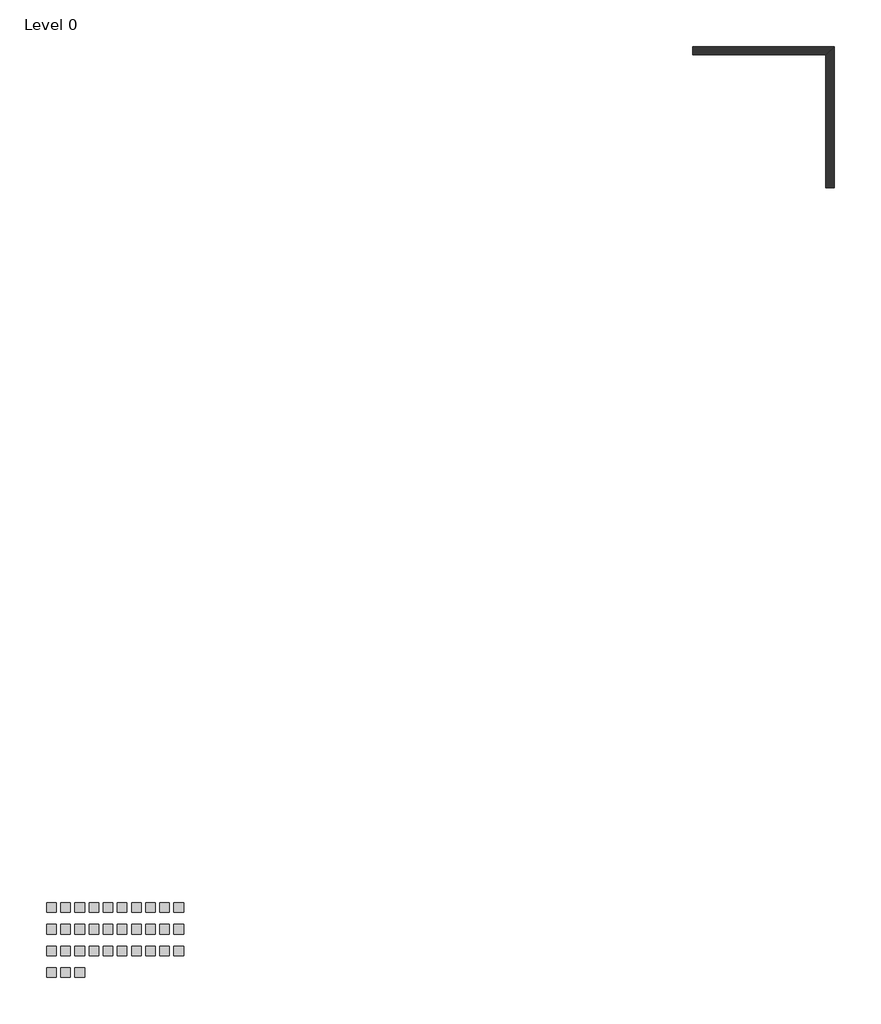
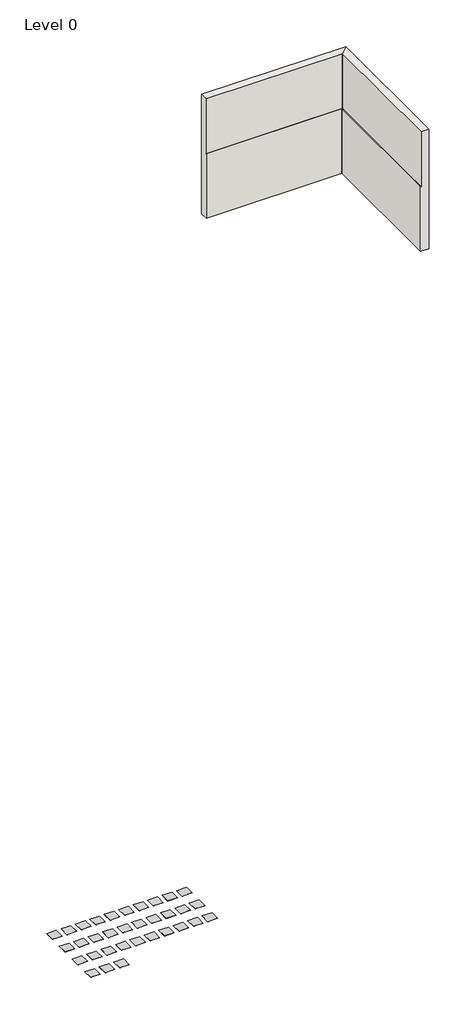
# One storey: 33 proxies, 2 walls.
"""IFC4 building model written with IfcOpenShell, lengths in millimetres."""

from ifc_helpers import new_model, si_unit, origin, place, context, project, spatial, faceted_brep, transform, mapped, element, save
from components import generic_models_07b58aa4

model = new_model("IFC4")

# Units and contexts
model_context = context("Model", 3, world=origin())
ifc_project = project(units=[si_unit("LENGTHUNIT", "METRE", prefix="MILLI")], contexts=[model_context])

# Site, building, storey
site = spatial("IfcSite", under=ifc_project)
building = spatial("IfcBuilding", under=site)
storey = spatial("IfcBuildingStorey", under=building, Name="Level 0", Elevation=0.0)

# Proxies
placement = place(None, origin())
generic_models_shape = generic_models_07b58aa4(model_context)
element("IfcBuildingElementProxy", 1, Name="Loggia_Placeholder : Loggia Placeholder", ObjectType="Loggia_Placeholder : Loggia Placeholder", at=placement, inside=storey, context=model_context, shape_type="MappedRepresentation", body=[
    mapped(generic_models_shape, transform((-8758.8736536, -17651.6576878, 0.0), x_axis=(1.0, 0.0, 0.0), y_axis=(0.0, 1.0, 0.0), z_axis=(0.0, 0.0, 1.0))),
])
element("IfcBuildingElementProxy", 2, Name="Loggia_Placeholder : Loggia Placeholder", ObjectType="Loggia_Placeholder : Loggia Placeholder", at=placement, inside=storey, context=model_context, shape_type="MappedRepresentation", body=[
    mapped(generic_models_shape, transform((-9355.6736536, -16280.0576878, 0.0), x_axis=(1.0, 0.0, 0.0), y_axis=(0.0, 1.0, 0.0), z_axis=(0.0, 0.0, 1.0))),
])
element("IfcBuildingElementProxy", 3, Name="Loggia_Placeholder : Loggia Placeholder", ObjectType="Loggia_Placeholder : Loggia Placeholder", at=placement, inside=storey, context=model_context, shape_type="MappedRepresentation", body=[
    mapped(generic_models_shape, transform((-9057.2736536, -16280.0576878, 0.0), x_axis=(1.0, 0.0, 0.0), y_axis=(0.0, 1.0, 0.0), z_axis=(0.0, 0.0, 1.0))),
])
element("IfcBuildingElementProxy", 4, Name="Loggia_Placeholder : Loggia Placeholder", ObjectType="Loggia_Placeholder : Loggia Placeholder", at=placement, inside=storey, context=model_context, shape_type="MappedRepresentation", body=[
    mapped(generic_models_shape, transform((-8758.8736536, -16280.0576878, 0.0), x_axis=(1.0, 0.0, 0.0), y_axis=(0.0, 1.0, 0.0), z_axis=(0.0, 0.0, 1.0))),
])
element("IfcBuildingElementProxy", 5, Name="Loggia_Placeholder : Loggia Placeholder", ObjectType="Loggia_Placeholder : Loggia Placeholder", at=placement, inside=storey, context=model_context, shape_type="MappedRepresentation", body=[
    mapped(generic_models_shape, transform((-8460.4736536, -16280.0576878, 0.0), x_axis=(1.0, 0.0, 0.0), y_axis=(0.0, 1.0, 0.0), z_axis=(0.0, 0.0, 1.0))),
])
element("IfcBuildingElementProxy", 6, Name="Loggia_Placeholder : Loggia Placeholder", ObjectType="Loggia_Placeholder : Loggia Placeholder", at=placement, inside=storey, context=model_context, shape_type="MappedRepresentation", body=[
    mapped(generic_models_shape, transform((-8162.0736536, -16280.0576878, 0.0), x_axis=(1.0, 0.0, 0.0), y_axis=(0.0, 1.0, 0.0), z_axis=(0.0, 0.0, 1.0))),
])
element("IfcBuildingElementProxy", 7, Name="Loggia_Placeholder : Loggia Placeholder", ObjectType="Loggia_Placeholder : Loggia Placeholder", at=placement, inside=storey, context=model_context, shape_type="MappedRepresentation", body=[
    mapped(generic_models_shape, transform((-7863.6736536, -16280.0576878, 0.0), x_axis=(1.0, 0.0, 0.0), y_axis=(0.0, 1.0, 0.0), z_axis=(0.0, 0.0, 1.0))),
])
element("IfcBuildingElementProxy", 8, Name="Loggia_Placeholder : Loggia Placeholder", ObjectType="Loggia_Placeholder : Loggia Placeholder", at=placement, inside=storey, context=model_context, shape_type="MappedRepresentation", body=[
    mapped(generic_models_shape, transform((-7565.2736536, -16280.0576878, 0.0), x_axis=(1.0, 0.0, 0.0), y_axis=(0.0, 1.0, 0.0), z_axis=(0.0, 0.0, 1.0))),
])
element("IfcBuildingElementProxy", 9, Name="Loggia_Placeholder : Loggia Placeholder", ObjectType="Loggia_Placeholder : Loggia Placeholder", at=placement, inside=storey, context=model_context, shape_type="MappedRepresentation", body=[
    mapped(generic_models_shape, transform((-7266.8736536, -16280.0576878, 0.0), x_axis=(1.0, 0.0, 0.0), y_axis=(0.0, 1.0, 0.0), z_axis=(0.0, 0.0, 1.0))),
])
element("IfcBuildingElementProxy", 10, Name="Loggia_Placeholder : Loggia Placeholder", ObjectType="Loggia_Placeholder : Loggia Placeholder", at=placement, inside=storey, context=model_context, shape_type="MappedRepresentation", body=[
    mapped(generic_models_shape, transform((-6968.4736536, -16280.0576878, 0.0), x_axis=(1.0, 0.0, 0.0), y_axis=(0.0, 1.0, 0.0), z_axis=(0.0, 0.0, 1.0))),
])
element("IfcBuildingElementProxy", 11, Name="Loggia_Placeholder : Loggia Placeholder", ObjectType="Loggia_Placeholder : Loggia Placeholder", at=placement, inside=storey, context=model_context, shape_type="MappedRepresentation", body=[
    mapped(generic_models_shape, transform((-6670.0736536, -16280.0576878, 0.0), x_axis=(1.0, 0.0, 0.0), y_axis=(0.0, 1.0, 0.0), z_axis=(0.0, 0.0, 1.0))),
])
element("IfcBuildingElementProxy", 12, Name="Loggia_Placeholder : Loggia Placeholder", ObjectType="Loggia_Placeholder : Loggia Placeholder", at=placement, inside=storey, context=model_context, shape_type="MappedRepresentation", body=[
    mapped(generic_models_shape, transform((-9355.6736536, -16737.2576878, 0.0), x_axis=(1.0, 0.0, 0.0), y_axis=(0.0, 1.0, 0.0), z_axis=(0.0, 0.0, 1.0))),
])
element("IfcBuildingElementProxy", 13, Name="Loggia_Placeholder : Loggia Placeholder", ObjectType="Loggia_Placeholder : Loggia Placeholder", at=placement, inside=storey, context=model_context, shape_type="MappedRepresentation", body=[
    mapped(generic_models_shape, transform((-9057.2736536, -16737.2576878, 0.0), x_axis=(1.0, 0.0, 0.0), y_axis=(0.0, 1.0, 0.0), z_axis=(0.0, 0.0, 1.0))),
])
element("IfcBuildingElementProxy", 14, Name="Loggia_Placeholder : Loggia Placeholder", ObjectType="Loggia_Placeholder : Loggia Placeholder", at=placement, inside=storey, context=model_context, shape_type="MappedRepresentation", body=[
    mapped(generic_models_shape, transform((-8758.8736536, -16737.2576878, 0.0), x_axis=(1.0, 0.0, 0.0), y_axis=(0.0, 1.0, 0.0), z_axis=(0.0, 0.0, 1.0))),
])
element("IfcBuildingElementProxy", 15, Name="Loggia_Placeholder : Loggia Placeholder", ObjectType="Loggia_Placeholder : Loggia Placeholder", at=placement, inside=storey, context=model_context, shape_type="MappedRepresentation", body=[
    mapped(generic_models_shape, transform((-8460.4736536, -16737.2576878, 0.0), x_axis=(1.0, 0.0, 0.0), y_axis=(0.0, 1.0, 0.0), z_axis=(0.0, 0.0, 1.0))),
])
element("IfcBuildingElementProxy", 16, Name="Loggia_Placeholder : Loggia Placeholder", ObjectType="Loggia_Placeholder : Loggia Placeholder", at=placement, inside=storey, context=model_context, shape_type="MappedRepresentation", body=[
    mapped(generic_models_shape, transform((-8162.0736536, -16737.2576878, 0.0), x_axis=(1.0, 0.0, 0.0), y_axis=(0.0, 1.0, 0.0), z_axis=(0.0, 0.0, 1.0))),
])
element("IfcBuildingElementProxy", 17, Name="Loggia_Placeholder : Loggia Placeholder", ObjectType="Loggia_Placeholder : Loggia Placeholder", at=placement, inside=storey, context=model_context, shape_type="MappedRepresentation", body=[
    mapped(generic_models_shape, transform((-7863.6736536, -16737.2576878, 0.0), x_axis=(1.0, 0.0, 0.0), y_axis=(0.0, 1.0, 0.0), z_axis=(0.0, 0.0, 1.0))),
])
element("IfcBuildingElementProxy", 18, Name="Loggia_Placeholder : Loggia Placeholder", ObjectType="Loggia_Placeholder : Loggia Placeholder", at=placement, inside=storey, context=model_context, shape_type="MappedRepresentation", body=[
    mapped(generic_models_shape, transform((-7565.2736536, -16737.2576878, 0.0), x_axis=(1.0, 0.0, 0.0), y_axis=(0.0, 1.0, 0.0), z_axis=(0.0, 0.0, 1.0))),
])
element("IfcBuildingElementProxy", 19, Name="Loggia_Placeholder : Loggia Placeholder", ObjectType="Loggia_Placeholder : Loggia Placeholder", at=placement, inside=storey, context=model_context, shape_type="MappedRepresentation", body=[
    mapped(generic_models_shape, transform((-7266.8736536, -16737.2576878, 0.0), x_axis=(1.0, 0.0, 0.0), y_axis=(0.0, 1.0, 0.0), z_axis=(0.0, 0.0, 1.0))),
])
element("IfcBuildingElementProxy", 20, Name="Loggia_Placeholder : Loggia Placeholder", ObjectType="Loggia_Placeholder : Loggia Placeholder", at=placement, inside=storey, context=model_context, shape_type="MappedRepresentation", body=[
    mapped(generic_models_shape, transform((-6968.4736536, -16737.2576878, 0.0), x_axis=(1.0, 0.0, 0.0), y_axis=(0.0, 1.0, 0.0), z_axis=(0.0, 0.0, 1.0))),
])
element("IfcBuildingElementProxy", 21, Name="Loggia_Placeholder : Loggia Placeholder", ObjectType="Loggia_Placeholder : Loggia Placeholder", at=placement, inside=storey, context=model_context, shape_type="MappedRepresentation", body=[
    mapped(generic_models_shape, transform((-6670.0736536, -16737.2576878, 0.0), x_axis=(1.0, 0.0, 0.0), y_axis=(0.0, 1.0, 0.0), z_axis=(0.0, 0.0, 1.0))),
])
element("IfcBuildingElementProxy", 22, Name="Loggia_Placeholder : Loggia Placeholder", ObjectType="Loggia_Placeholder : Loggia Placeholder", at=placement, inside=storey, context=model_context, shape_type="MappedRepresentation", body=[
    mapped(generic_models_shape, transform((-9355.6736536, -17194.4576878, 0.0), x_axis=(1.0, 0.0, 0.0), y_axis=(0.0, 1.0, 0.0), z_axis=(0.0, 0.0, 1.0))),
])
element("IfcBuildingElementProxy", 23, Name="Loggia_Placeholder : Loggia Placeholder", ObjectType="Loggia_Placeholder : Loggia Placeholder", at=placement, inside=storey, context=model_context, shape_type="MappedRepresentation", body=[
    mapped(generic_models_shape, transform((-9057.2736536, -17194.4576878, 0.0), x_axis=(1.0, 0.0, 0.0), y_axis=(0.0, 1.0, 0.0), z_axis=(0.0, 0.0, 1.0))),
])
element("IfcBuildingElementProxy", 24, Name="Loggia_Placeholder : Loggia Placeholder", ObjectType="Loggia_Placeholder : Loggia Placeholder", at=placement, inside=storey, context=model_context, shape_type="MappedRepresentation", body=[
    mapped(generic_models_shape, transform((-8758.8736536, -17194.4576878, 0.0), x_axis=(1.0, 0.0, 0.0), y_axis=(0.0, 1.0, 0.0), z_axis=(0.0, 0.0, 1.0))),
])
element("IfcBuildingElementProxy", 25, Name="Loggia_Placeholder : Loggia Placeholder", ObjectType="Loggia_Placeholder : Loggia Placeholder", at=placement, inside=storey, context=model_context, shape_type="MappedRepresentation", body=[
    mapped(generic_models_shape, transform((-8460.4736536, -17194.4576878, 0.0), x_axis=(1.0, 0.0, 0.0), y_axis=(0.0, 1.0, 0.0), z_axis=(0.0, 0.0, 1.0))),
])
element("IfcBuildingElementProxy", 26, Name="Loggia_Placeholder : Loggia Placeholder", ObjectType="Loggia_Placeholder : Loggia Placeholder", at=placement, inside=storey, context=model_context, shape_type="MappedRepresentation", body=[
    mapped(generic_models_shape, transform((-8162.0736536, -17194.4576878, 0.0), x_axis=(1.0, 0.0, 0.0), y_axis=(0.0, 1.0, 0.0), z_axis=(0.0, 0.0, 1.0))),
])
element("IfcBuildingElementProxy", 27, Name="Loggia_Placeholder : Loggia Placeholder", ObjectType="Loggia_Placeholder : Loggia Placeholder", at=placement, inside=storey, context=model_context, shape_type="MappedRepresentation", body=[
    mapped(generic_models_shape, transform((-7863.6736536, -17194.4576878, 0.0), x_axis=(1.0, 0.0, 0.0), y_axis=(0.0, 1.0, 0.0), z_axis=(0.0, 0.0, 1.0))),
])
element("IfcBuildingElementProxy", 28, Name="Loggia_Placeholder : Loggia Placeholder", ObjectType="Loggia_Placeholder : Loggia Placeholder", at=placement, inside=storey, context=model_context, shape_type="MappedRepresentation", body=[
    mapped(generic_models_shape, transform((-7565.2736536, -17194.4576878, 0.0), x_axis=(1.0, 0.0, 0.0), y_axis=(0.0, 1.0, 0.0), z_axis=(0.0, 0.0, 1.0))),
])
element("IfcBuildingElementProxy", 29, Name="Loggia_Placeholder : Loggia Placeholder", ObjectType="Loggia_Placeholder : Loggia Placeholder", at=placement, inside=storey, context=model_context, shape_type="MappedRepresentation", body=[
    mapped(generic_models_shape, transform((-7266.8736536, -17194.4576878, 0.0), x_axis=(1.0, 0.0, 0.0), y_axis=(0.0, 1.0, 0.0), z_axis=(0.0, 0.0, 1.0))),
])
element("IfcBuildingElementProxy", 30, Name="Loggia_Placeholder : Loggia Placeholder", ObjectType="Loggia_Placeholder : Loggia Placeholder", at=placement, inside=storey, context=model_context, shape_type="MappedRepresentation", body=[
    mapped(generic_models_shape, transform((-6968.4736536, -17194.4576878, 0.0), x_axis=(1.0, 0.0, 0.0), y_axis=(0.0, 1.0, 0.0), z_axis=(0.0, 0.0, 1.0))),
])
element("IfcBuildingElementProxy", 31, Name="Loggia_Placeholder : Loggia Placeholder", ObjectType="Loggia_Placeholder : Loggia Placeholder", at=placement, inside=storey, context=model_context, shape_type="MappedRepresentation", body=[
    mapped(generic_models_shape, transform((-6670.0736536, -17194.4576878, 0.0), x_axis=(1.0, 0.0, 0.0), y_axis=(0.0, 1.0, 0.0), z_axis=(0.0, 0.0, 1.0))),
])
element("IfcBuildingElementProxy", 32, Name="Loggia_Placeholder : Loggia Placeholder", ObjectType="Loggia_Placeholder : Loggia Placeholder", at=placement, inside=storey, context=model_context, shape_type="MappedRepresentation", body=[
    mapped(generic_models_shape, transform((-9355.6736536, -17651.6576878, 0.0), x_axis=(1.0, 0.0, 0.0), y_axis=(0.0, 1.0, 0.0), z_axis=(0.0, 0.0, 1.0))),
])
element("IfcBuildingElementProxy", 33, Name="Loggia_Placeholder : Loggia Placeholder", ObjectType="Loggia_Placeholder : Loggia Placeholder", at=placement, inside=storey, context=model_context, shape_type="MappedRepresentation", body=[
    mapped(generic_models_shape, transform((-9057.2736536, -17651.6576878, 0.0), x_axis=(1.0, 0.0, 0.0), y_axis=(0.0, 1.0, 0.0), z_axis=(0.0, 0.0, 1.0))),
])

# Walls
element("IfcWall", 34, ObjectType="Wall_Generic_Loggia-Showcase", at=placement, inside=storey, context=model_context, shape_type="Brep", body=[
    faceted_brep([(4160.5903752, 1688.5585818, 0.0), (6964.5903752, 1688.5585818, 0.0), (6964.5903752, 1688.5585818, 1406.4126577), (4160.5903752, 1688.5585818, 1406.4126577), (4160.5903752, 1864.5585818, 0.0), (4160.5903752, 1864.5585818, 2600.0), (7140.5903752, 1864.5585818, 2600.0), (7140.5903752, 1864.5585818, 0.0), (4160.5903752, 1704.5585818, 1406.4126577), (4160.5903752, 1704.5585818, 2600.0), (6980.5903752, 1704.5585818, 2600.0), (6980.5903752, 1704.5585818, 1406.4126577)], [[[0, 1, 2, 3]], [[4, 5, 6, 7]], [[1, 0, 4, 7]], [[0, 3, 8, 9, 5, 4]], [[10, 6, 5, 9]], [[8, 11, 10, 9]], [[3, 2, 11, 8]], [[2, 1, 7, 6, 10, 11]]]),
])
element("IfcWall", 35, ObjectType="Wall_Generic_Loggia-Showcase", at=placement, inside=storey, context=model_context, shape_type="Brep", body=[
    faceted_brep([(6964.5903752, 1688.5585818, 0.0), (6964.5903752, -1115.4414182, 0.0), (6964.5903752, -1115.4414182, 1406.4126577), (6964.5903752, 1688.5585818, 1406.4126577), (7140.5903752, 1864.5585818, 0.0), (7140.5903752, 1864.5585818, 2600.0), (7140.5903752, -1115.4414182, 2600.0), (7140.5903752, -1115.4414182, 0.0), (6980.5903752, -1115.4414182, 2600.0), (6980.5903752, -1115.4414182, 1406.4126577), (6980.5903752, 1704.5585818, 2600.0), (6980.5903752, 1704.5585818, 1406.4126577)], [[[0, 1, 2, 3]], [[4, 5, 6, 7]], [[1, 0, 4, 7]], [[2, 1, 7, 6, 8, 9]], [[8, 6, 5, 10]], [[11, 9, 8, 10]], [[3, 2, 9, 11]], [[0, 3, 11, 10, 5, 4]]]),
])

save(model, "model.ifc")
